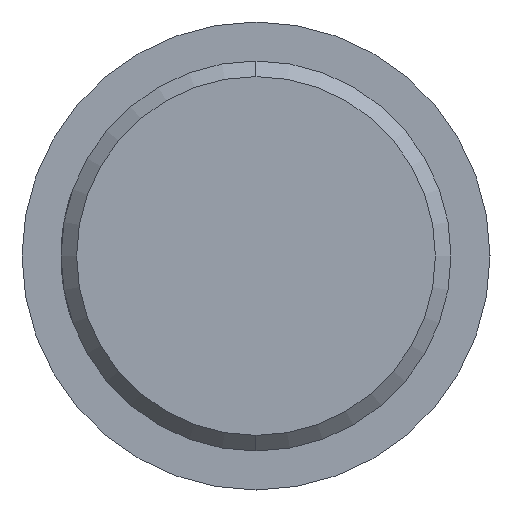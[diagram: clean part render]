
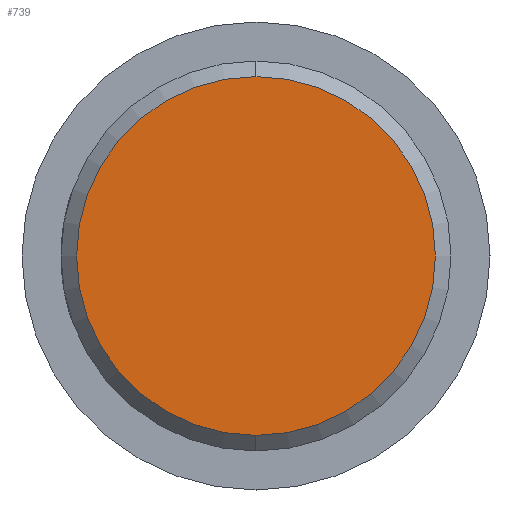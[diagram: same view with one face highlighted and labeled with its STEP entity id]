
A CAD part, left-side view. The second image highlights one B-rep face of the part: STEP entity #739.
In plain terms, the highlighted planar face has unit normal (-1, 0, 0).
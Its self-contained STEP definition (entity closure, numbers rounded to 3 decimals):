
#186 = DIRECTION ( 'NONE',  ( -1., 0., 0. ) ) ;
#195 = DIRECTION ( 'NONE',  ( 0., 0., 1. ) ) ;
#199 = CARTESIAN_POINT ( 'NONE',  ( 0., 0., -11.5 ) ) ;
#236 = DIRECTION ( 'NONE',  ( 0., 0., 1. ) ) ;
#237 = DIRECTION ( 'NONE',  ( -1., 0., 0. ) ) ;
#241 = CARTESIAN_POINT ( 'NONE',  ( 0., 0., 0. ) ) ;
#274 = PLANE ( 'NONE',  #604 ) ;
#300 = CARTESIAN_POINT ( 'NONE',  ( 0., 0., 11.5 ) ) ;
#309 = DIRECTION ( 'NONE',  ( 0., 0., 1. ) ) ;
#310 = DIRECTION ( 'NONE',  ( -1., 0., 0. ) ) ;
#311 = CARTESIAN_POINT ( 'NONE',  ( 0., 0., 0. ) ) ;
#417 = CARTESIAN_POINT ( 'NONE',  ( 0., 0., 0. ) ) ;
#559 = EDGE_CURVE ( 'NONE', #929, #895, #876, .T. ) ;
#604 = AXIS2_PLACEMENT_3D ( 'NONE', #417, #186, #195 ) ;
#614 = AXIS2_PLACEMENT_3D ( 'NONE', #241, #237, #236 ) ;
#640 = AXIS2_PLACEMENT_3D ( 'NONE', #311, #310, #309 ) ;
#705 = EDGE_CURVE ( 'NONE', #895, #929, #1139, .T. ) ;
#739 = ADVANCED_FACE ( 'NONE', ( #1085 ), #274, .T. ) ;
#876 = CIRCLE ( 'NONE', #614, 11.5 ) ;
#895 = VERTEX_POINT ( 'NONE', #199 ) ;
#929 = VERTEX_POINT ( 'NONE', #300 ) ;
#1085 = FACE_OUTER_BOUND ( 'NONE', #1197, .T. ) ;
#1138 = ORIENTED_EDGE ( 'NONE', *, *, #705, .T. ) ;
#1139 = CIRCLE ( 'NONE', #640, 11.5 ) ;
#1143 = ORIENTED_EDGE ( 'NONE', *, *, #559, .T. ) ;
#1197 = EDGE_LOOP ( 'NONE', ( #1138, #1143 ) ) ;
